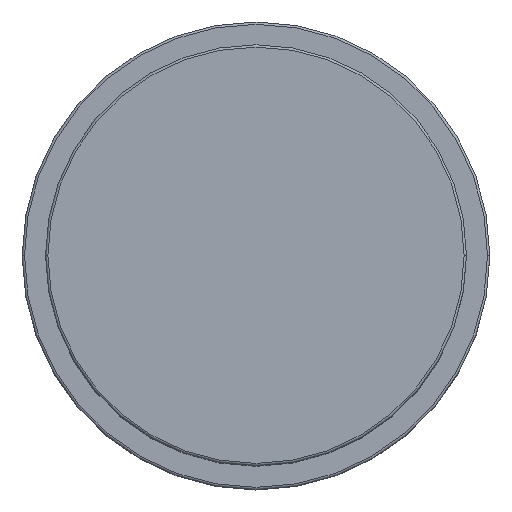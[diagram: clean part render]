
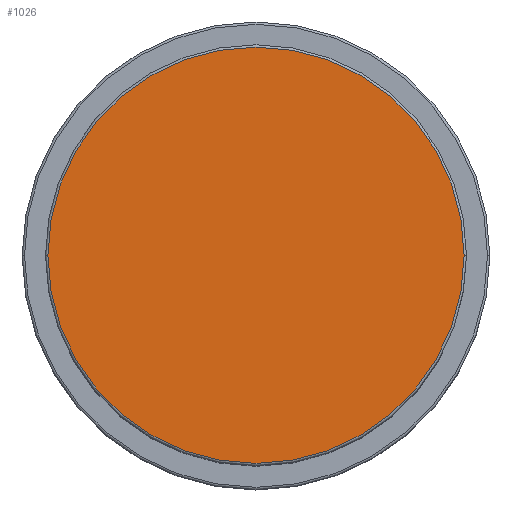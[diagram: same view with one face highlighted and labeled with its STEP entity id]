
A CAD part, top view. The second image highlights one B-rep face of the part: STEP entity #1026.
In plain terms, the highlighted planar face has unit normal (0, 0, 1).
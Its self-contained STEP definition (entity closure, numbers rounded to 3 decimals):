
#32 = EDGE_LOOP ( 'NONE', ( #296, #1257 ) ) ;
#54 = FACE_OUTER_BOUND ( 'NONE', #32, .T. ) ;
#106 = AXIS2_PLACEMENT_3D ( 'NONE', #1008, #1537, #610 ) ;
#286 = VERTEX_POINT ( 'NONE', #749 ) ;
#296 = ORIENTED_EDGE ( 'NONE', *, *, #1364, .T. ) ;
#329 = CIRCLE ( 'NONE', #1673, 44.5 ) ;
#426 = DIRECTION ( 'NONE',  ( 1., 0., 0. ) ) ;
#496 = AXIS2_PLACEMENT_3D ( 'NONE', #579, #847, #426 ) ;
#525 = DIRECTION ( 'NONE',  ( 1., 0., 0. ) ) ;
#579 = CARTESIAN_POINT ( 'NONE',  ( 0., 0., 92. ) ) ;
#585 = VERTEX_POINT ( 'NONE', #970 ) ;
#610 = DIRECTION ( 'NONE',  ( 1., 0., 0. ) ) ;
#662 = EDGE_CURVE ( 'NONE', #286, #585, #1571, .T. ) ;
#705 = PLANE ( 'NONE',  #496 ) ;
#749 = CARTESIAN_POINT ( 'NONE',  ( -44.5, 0., 92. ) ) ;
#847 = DIRECTION ( 'NONE',  ( 0., 0., 1. ) ) ;
#970 = CARTESIAN_POINT ( 'NONE',  ( 44.5, 0., 92. ) ) ;
#1008 = CARTESIAN_POINT ( 'NONE',  ( 0., 0., 92. ) ) ;
#1026 = ADVANCED_FACE ( 'NONE', ( #54 ), #705, .T. ) ;
#1192 = CARTESIAN_POINT ( 'NONE',  ( 0., 0., 92. ) ) ;
#1257 = ORIENTED_EDGE ( 'NONE', *, *, #662, .T. ) ;
#1364 = EDGE_CURVE ( 'NONE', #585, #286, #329, .T. ) ;
#1537 = DIRECTION ( 'NONE',  ( 0., 0., 1. ) ) ;
#1571 = CIRCLE ( 'NONE', #106, 44.5 ) ;
#1619 = DIRECTION ( 'NONE',  ( 0., 0., 1. ) ) ;
#1673 = AXIS2_PLACEMENT_3D ( 'NONE', #1192, #1619, #525 ) ;
